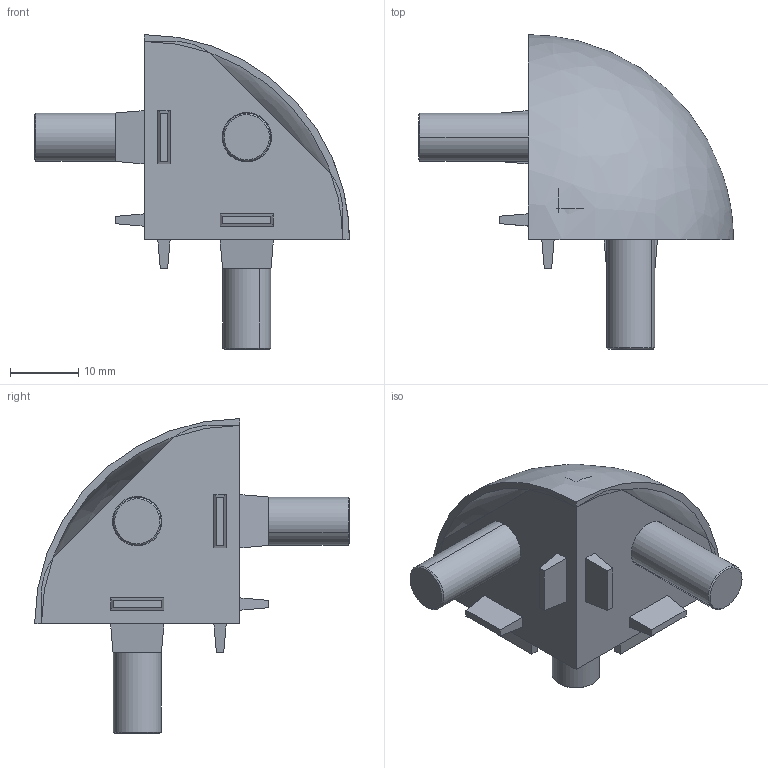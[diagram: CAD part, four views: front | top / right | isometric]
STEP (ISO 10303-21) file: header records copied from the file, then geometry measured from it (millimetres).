
FILE_DESCRIPTION (( 'STEP AP214' ), '1' );
FILE_NAME ('11644_VERSTZ8.R3090.STEP', '2016-10-19T10:07:39', ( '' ), ( '' ), 'SwSTEP 2.0', 'SolidWorks 2016', '' );
FILE_SCHEMA (( 'AUTOMOTIVE_DESIGN' ));
Length unit declared in the file: millimetre
Products named in the file (4): 11644_VERSTZ8.R3090; Schraube_Standard<Wie bearbeitet>; 11644_grundteil; 11644_Kappe
Assembly tree (5 placements, depth 2):
  11644_VERSTZ8.R3090
    Schraube_Standard<Wie bearbeitet>  x3
    11644_grundteil
    11644_Kappe
Bounding box: 46 x 46 x 46 mm (x, y, z)
Volume: 10426.8 mm3; surface area: 9641.4 mm2
Topology: 8 solids, 8 shells, 162 faces, 402 edges, 260 vertices
Faces by surface type: plane 114, cone 26, cylinder 20, bspline 2
Entity records: 3794 total; most frequent: CARTESIAN_POINT 828, ORIENTED_EDGE 576, DIRECTION 573, EDGE_CURVE 288, LINE 207, VECTOR 207, VERTEX_POINT 188, AXIS2_PLACEMENT_3D 183
